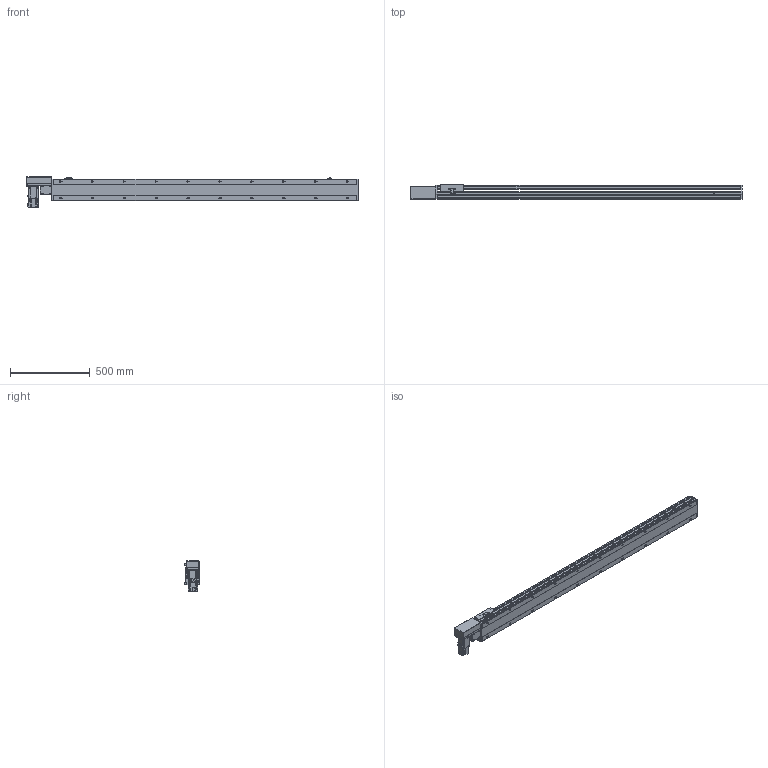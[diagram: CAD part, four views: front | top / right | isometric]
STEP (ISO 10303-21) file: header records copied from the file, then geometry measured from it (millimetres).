
FILE_DESCRIPTION( ( 'STEP AP214' ), '1' );
FILE_NAME( 'x:/temp/worker_6/temp/exporttempdir_5396_65_V89XE/format_0/PBS140S-P40-S1650-R-T40-C1-N(0).stp', '2022-06-09T00:18:00', ( 'License CC BY-ND 4.0' ), ( 'CADENAS' ), ' ', 'PARTsolutions', ' ' );
FILE_SCHEMA( ( 'AUTOMOTIVE_DESIGN { 1 0 10303 214 1 1 1 1 }' ) );
Length unit declared in the file: millimetre
Products named in the file (7): PBS140S-P40-S1650-R-T40-C1-N(0); _PBS140S-S1650()_body; _PBS140ST-R_motors; _T40-p1; _PBS140S_sliser; _PBS140S_plant; _PBS140S_sensor
Assembly tree (8 placements, depth 2):
  PBS140S-P40-S1650-R-T40-C1-N(0)
    _PBS140S-S1650()_body
    _PBS140ST-R_motors
    _T40-p1
    _PBS140S_sliser
    _PBS140S_plant
    _PBS140S_sensor  x3
Bounding box: 2083 x 93 x 189.7 mm (x, y, z)
Volume: 10000805.5 mm3; surface area: 1702868.8 mm2
Topology: 8 solids, 8 shells, 1131 faces, 2991 edges, 1957 vertices
Faces by surface type: plane 714, cylinder 361, cone 46, sphere 8, torus 2
Full cylindrical faces by diameter (mm): 3.242 x4, 4 x2, 4.134 x4, 4.4 x8, 4.5 x2, 4.8 x4, 4.917 x28, 5.5 x7, 6 x2, 7 x22, 7.5 x8, 8 x12, 8.5 x4, 10.5 x20, 14 x1, 30 x2, 50 x2
Entity records: 41620 total; most frequent: CARTESIAN_POINT 6742, DIRECTION 5488, ORIENTED_EDGE 5182, EDGE_CURVE 2591, AXIS2_PLACEMENT_3D 1919, VERTEX_POINT 1801, LINE 1650, VECTOR 1650
